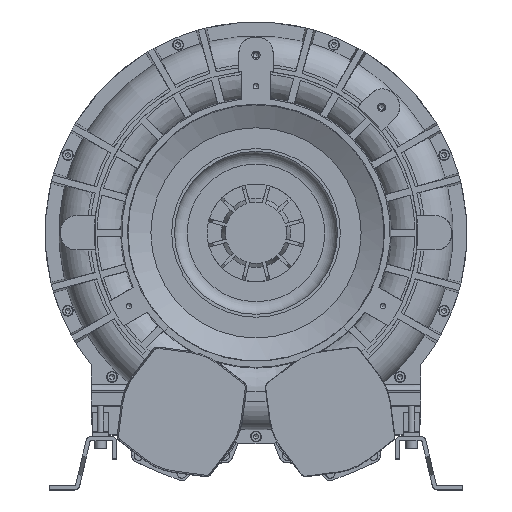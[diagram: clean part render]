
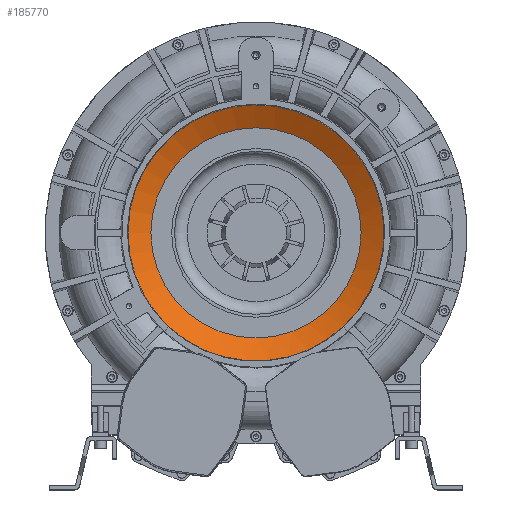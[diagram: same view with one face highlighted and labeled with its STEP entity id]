
A CAD part, top view. The second image highlights one B-rep face of the part: STEP entity #185770.
In plain terms, the highlighted conical face has half-angle 62 degrees and reference radius 129.023 mm.
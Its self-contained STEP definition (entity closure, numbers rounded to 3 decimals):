
#1934 = VERTEX_POINT ( 'NONE', #267575 ) ;
#8364 = CARTESIAN_POINT ( 'NONE',  ( 0., 0., 211.491 ) ) ;
#31951 = VERTEX_POINT ( 'NONE', #56285 ) ;
#34562 = AXIS2_PLACEMENT_3D ( 'NONE', #176348, #135636, #198027 ) ;
#40775 = AXIS2_PLACEMENT_3D ( 'NONE', #115493, #99135, #241564 ) ;
#47147 = EDGE_CURVE ( 'NONE', #1934, #1934, #247255, .T. ) ;
#56285 = CARTESIAN_POINT ( 'NONE',  ( -129.023, 0., 196.5 ) ) ;
#95663 = CIRCLE ( 'NONE', #34562, 129.023 ) ;
#97020 = CONICAL_SURFACE ( 'NONE', #40775, 129.023, 1.082 ) ;
#99135 = DIRECTION ( 'NONE',  ( 0., 0., 1. ) ) ;
#115493 = CARTESIAN_POINT ( 'NONE',  ( 0., 0., 196.5 ) ) ;
#119488 = FACE_OUTER_BOUND ( 'NONE', #169775, .T. ) ;
#130409 = AXIS2_PLACEMENT_3D ( 'NONE', #8364, #257694, #152051 ) ;
#135636 = DIRECTION ( 'NONE',  ( 0., 0., 1. ) ) ;
#152051 = DIRECTION ( 'NONE',  ( -1., 0., 0. ) ) ;
#169775 = EDGE_LOOP ( 'NONE', ( #200647 ) ) ;
#175776 = EDGE_CURVE ( 'NONE', #31951, #31951, #95663, .T. ) ;
#176348 = CARTESIAN_POINT ( 'NONE',  ( 0., 0., 196.5 ) ) ;
#183533 = ORIENTED_EDGE ( 'NONE', *, *, #175776, .F. ) ;
#185770 = ADVANCED_FACE ( 'NONE', ( #119488, #218557 ), #97020, .F. ) ;
#198027 = DIRECTION ( 'NONE',  ( -1., 0., 0. ) ) ;
#200647 = ORIENTED_EDGE ( 'NONE', *, *, #47147, .F. ) ;
#204193 = EDGE_LOOP ( 'NONE', ( #183533 ) ) ;
#218557 = FACE_BOUND ( 'NONE', #204193, .T. ) ;
#241564 = DIRECTION ( 'NONE',  ( 1., 0., 0. ) ) ;
#247255 = CIRCLE ( 'NONE', #130409, 157.217 ) ;
#257694 = DIRECTION ( 'NONE',  ( 0., 0., -1. ) ) ;
#267575 = CARTESIAN_POINT ( 'NONE',  ( -157.217, 0., 211.491 ) ) ;
